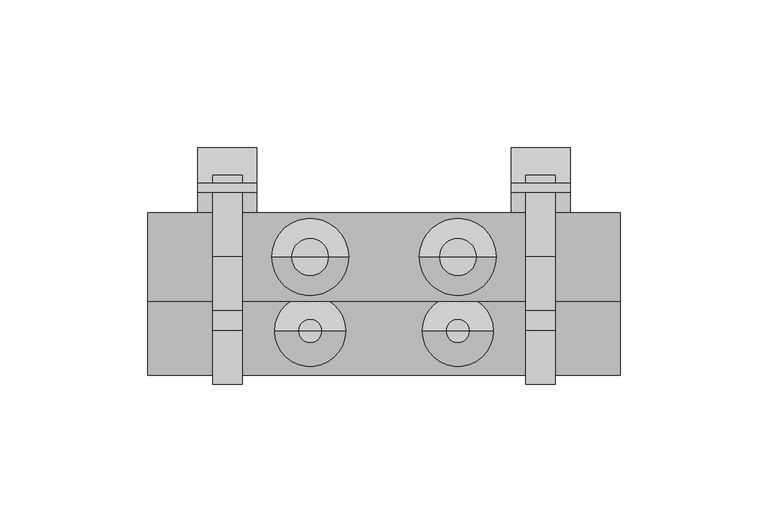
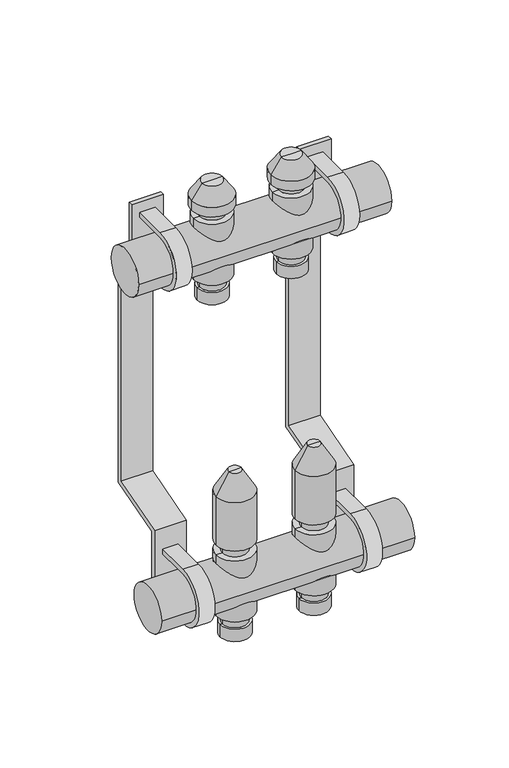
"""IFC4 building model written with IfcOpenShell, lengths in millimetres: valve geometry, PL CZ_Manifold_FT-VA : 02 circuits."""

from ifc_helpers import new_model, si_unit, point, frame, frame_2d, origin, origin_2d, place, context, project, spatial, polyline, circle_curve, trimmed, segment, composite_curve, outline, extrude, source, transform, mapped, element, save
from ifc_brep_helpers import plane_surface, cylinder_surface, revolved_surface, advanced_brep


def valve_fda01fd1(model_context):
    return source(origin(), model_context, "Body", "SolidModel", [
        advanced_brep(
        [(78.5, 0.0, -35.11267), (97.5, 0.0, -35.11267), (88.0, 0.0, -35.11267), (78.5, 0.0, -27.0369646), (97.5, 0.0, -27.0369646), (80.0, 0.0, -27.0369646), (96.0, 0.0, -27.0369646), (80.0, 0.0, -20.330253), (96.0, 0.0, -20.330253), (76.0, 0.0, -20.330253), (100.0, 0.0, -20.330253), (76.0, 0.0, 20.330253), (100.0, 0.0, 20.330253), (80.0, 0.0, 20.330253), (96.0, 0.0, 20.330253), (80.0, 0.0, 27.0474786), (96.0, 0.0, 27.0474786), (76.0, 0.0, 27.0474786), (100.0, 0.0, 27.0474786), (76.0, 0.0, 59.4084325), (100.0, 0.0, 59.4084325), (84.0, 0.0, 73.264839), (92.0, 0.0, 73.264839), (88.0, 0.0, 73.264839)],
        [
            (0, 1, circle_curve(frame((88.0, 0.0, -35.11267), z_axis=(0.0, 0.0, -1.0), x_axis=(1.0, 0.0, 0.0)), 9.5)),
            (1, 2),
            (2, 0),
            (1, 0, circle_curve(frame((88.0, 0.0, -35.11267), z_axis=(0.0, 0.0, -1.0), x_axis=(1.0, 0.0, 0.0)), 9.5)),
            (3, 4, circle_curve(frame((88.0, 0.0, -27.0369646), z_axis=(0.0, 0.0, -1.0), x_axis=(1.0, 0.0, 0.0)), 9.5)),
            (4, 1),
            (0, 3),
            (4, 3, circle_curve(frame((88.0, 0.0, -27.0369646), z_axis=(0.0, 0.0, -1.0), x_axis=(1.0, 0.0, 0.0)), 9.5)),
            (5, 6, circle_curve(frame((88.0, 0.0, -27.0369646), z_axis=(0.0, 0.0, -1.0), x_axis=(1.0, 0.0, 0.0)), 8.0)),
            (6, 4),
            (3, 5),
            (6, 5, circle_curve(frame((88.0, 0.0, -27.0369646), z_axis=(0.0, 0.0, -1.0), x_axis=(1.0, 0.0, 0.0)), 8.0)),
            (7, 8, circle_curve(frame((88.0, 0.0, -20.330253), z_axis=(0.0, 0.0, -1.0), x_axis=(1.0, 0.0, 0.0)), 8.0)),
            (8, 6),
            (5, 7),
            (8, 7, circle_curve(frame((88.0, 0.0, -20.330253), z_axis=(0.0, 0.0, -1.0), x_axis=(1.0, 0.0, 0.0)), 8.0)),
            (9, 10, circle_curve(frame((88.0, 0.0, -20.330253), z_axis=(0.0, 0.0, -1.0), x_axis=(1.0, 0.0, 0.0)), 12.0)),
            (10, 8),
            (7, 9),
            (10, 9, circle_curve(frame((88.0, 0.0, -20.330253), z_axis=(0.0, 0.0, -1.0), x_axis=(1.0, 0.0, 0.0)), 12.0)),
            (11, 12, circle_curve(frame((88.0, 0.0, 20.330253), z_axis=(0.0, 0.0, -1.0), x_axis=(1.0, 0.0, 0.0)), 12.0)),
            (12, 10),
            (9, 11),
            (12, 11, circle_curve(frame((88.0, 0.0, 20.330253), z_axis=(0.0, 0.0, -1.0), x_axis=(1.0, 0.0, 0.0)), 12.0)),
            (13, 14, circle_curve(frame((88.0, 0.0, 20.330253), z_axis=(0.0, 0.0, -1.0), x_axis=(1.0, 0.0, 0.0)), 8.0)),
            (14, 12),
            (11, 13),
            (14, 13, circle_curve(frame((88.0, 0.0, 20.330253), z_axis=(0.0, 0.0, -1.0), x_axis=(1.0, 0.0, 0.0)), 8.0)),
            (15, 16, circle_curve(frame((88.0, 0.0, 27.0474786), z_axis=(0.0, 0.0, -1.0), x_axis=(1.0, 0.0, 0.0)), 8.0)),
            (16, 14),
            (13, 15),
            (16, 15, circle_curve(frame((88.0, 0.0, 27.0474786), z_axis=(0.0, 0.0, -1.0), x_axis=(1.0, 0.0, 0.0)), 8.0)),
            (17, 18, circle_curve(frame((88.0, 0.0, 27.0474786), z_axis=(0.0, 0.0, -1.0), x_axis=(1.0, 0.0, 0.0)), 12.0)),
            (18, 16),
            (15, 17),
            (18, 17, circle_curve(frame((88.0, 0.0, 27.0474786), z_axis=(0.0, 0.0, -1.0), x_axis=(1.0, 0.0, 0.0)), 12.0)),
            (19, 20, circle_curve(frame((88.0, 0.0, 59.4084325), z_axis=(0.0, 0.0, -1.0), x_axis=(1.0, 0.0, 0.0)), 12.0)),
            (20, 18),
            (17, 19),
            (20, 19, circle_curve(frame((88.0, 0.0, 59.4084325), z_axis=(0.0, 0.0, -1.0), x_axis=(1.0, 0.0, 0.0)), 12.0)),
            (21, 22, circle_curve(frame((88.0, 0.0, 73.264839), z_axis=(0.0, 0.0, -1.0), x_axis=(1.0, 0.0, 0.0)), 4.0)),
            (22, 20),
            (19, 21),
            (22, 21, circle_curve(frame((88.0, 0.0, 73.264839), z_axis=(0.0, 0.0, -1.0), x_axis=(1.0, 0.0, 0.0)), 4.0)),
            (23, 22),
            (21, 23),
        ],
        [
            plane_surface(frame((88.0, 0.0, -35.11267), z_axis=(0.0, 0.0, -1.0), x_axis=(1.0, 0.0, 0.0))),
            cylinder_surface(frame((88.0, 0.0, 58.264839), z_axis=(0.0, 0.0, 1.0), x_axis=(1.0, 0.0, 0.0)), 9.5),
            plane_surface(frame((88.0, 0.0, -27.0369646), z_axis=(0.0, 0.0, 1.0), x_axis=(1.0, 0.0, 0.0))),
            cylinder_surface(frame((88.0, 0.0, 58.264839), z_axis=(0.0, 0.0, 1.0), x_axis=(1.0, 0.0, 0.0)), 8.0),
            plane_surface(frame((88.0, 0.0, -20.330253), z_axis=(0.0, 0.0, -1.0), x_axis=(1.0, 0.0, 0.0))),
            cylinder_surface(frame((88.0, 0.0, 58.264839), z_axis=(0.0, 0.0, 1.0), x_axis=(1.0, 0.0, 0.0)), 12.0),
            plane_surface(frame((88.0, 0.0, 20.330253), z_axis=(0.0, 0.0, 1.0), x_axis=(1.0, 0.0, 0.0))),
            plane_surface(frame((88.0, 0.0, 27.0474786), z_axis=(0.0, 0.0, -1.0), x_axis=(1.0, 0.0, 0.0))),
            revolved_surface(polyline([(100.0, 0.0, 59.4084325), (92.0, 0.0, 73.264839)]), (88.0, 0.0, 58.264839), (0.0, 0.0, 1.0)),
            plane_surface(frame((88.0, 0.0, 73.264839), z_axis=(0.0, 0.0, 1.0), x_axis=(1.0, 0.0, 0.0))),
        ],
        [
            (0, [[1, 2, 3]]),
            (0, [[4, -3, -2]]),
            (1, [[5, 6, -1, 7]]),
            (1, [[8, -7, -4, -6]]),
            (2, [[9, 10, -5, 11]]),
            (2, [[12, -11, -8, -10]]),
            (3, [[13, 14, -9, 15]]),
            (3, [[16, -15, -12, -14]]),
            (4, [[17, 18, -13, 19]]),
            (4, [[20, -19, -16, -18]]),
            (5, [[21, 22, -17, 23]]),
            (5, [[24, -23, -20, -22]]),
            (6, [[25, 26, -21, 27]]),
            (6, [[28, -27, -24, -26]]),
            (3, [[29, 30, -25, 31]]),
            (3, [[32, -31, -28, -30]]),
            (7, [[33, 34, -29, 35]]),
            (7, [[36, -35, -32, -34]]),
            (5, [[37, 38, -33, 39]]),
            (5, [[40, -39, -36, -38]]),
            (8, [[41, 42, -37, 43]]),
            (8, [[44, -43, -40, -42]]),
            (9, [[45, -41, 46]]),
            (9, [[-46, -44, -45]]),
        ],
    ),
        advanced_brep(
        [(78.5, 25.0, 174.88733), (97.5, 25.0, 174.88733), (88.0, 25.0, 174.88733), (78.5, 25.0, 182.9630354), (97.5, 25.0, 182.9630354), (80.0, 25.0, 182.9630354), (96.0, 25.0, 182.9630354), (80.0, 25.0, 189.669747), (96.0, 25.0, 189.669747), (76.0, 25.0, 189.669747), (100.0, 25.0, 189.669747), (76.0, 25.0, 230.330253), (100.0, 25.0, 230.330253), (80.0, 25.0, 230.330253), (96.0, 25.0, 230.330253), (80.0, 25.0, 236.0474786), (96.0, 25.0, 236.0474786), (75.0, 25.0, 236.0474786), (101.0, 25.0, 236.0474786), (75.0, 25.0, 242.337955), (101.0, 25.0, 242.337955), (81.6551779, 25.0, 251.842534), (94.3448221, 25.0, 251.842534), (88.0, 25.0, 251.842534)],
        [
            (0, 1, circle_curve(frame((88.0, 25.0, 174.88733), z_axis=(0.0, 0.0, -1.0), x_axis=(1.0, 0.0, 0.0)), 9.5)),
            (1, 2),
            (2, 0),
            (1, 0, circle_curve(frame((88.0, 25.0, 174.88733), z_axis=(0.0, 0.0, -1.0), x_axis=(1.0, 0.0, 0.0)), 9.5)),
            (3, 4, circle_curve(frame((88.0, 25.0, 182.9630354), z_axis=(0.0, 0.0, -1.0), x_axis=(1.0, 0.0, 0.0)), 9.5)),
            (4, 1),
            (0, 3),
            (4, 3, circle_curve(frame((88.0, 25.0, 182.9630354), z_axis=(0.0, 0.0, -1.0), x_axis=(1.0, 0.0, 0.0)), 9.5)),
            (5, 6, circle_curve(frame((88.0, 25.0, 182.9630354), z_axis=(0.0, 0.0, -1.0), x_axis=(1.0, 0.0, 0.0)), 8.0)),
            (6, 4),
            (3, 5),
            (6, 5, circle_curve(frame((88.0, 25.0, 182.9630354), z_axis=(0.0, 0.0, -1.0), x_axis=(1.0, 0.0, 0.0)), 8.0)),
            (7, 8, circle_curve(frame((88.0, 25.0, 189.669747), z_axis=(0.0, 0.0, -1.0), x_axis=(1.0, 0.0, 0.0)), 8.0)),
            (8, 6),
            (5, 7),
            (8, 7, circle_curve(frame((88.0, 25.0, 189.669747), z_axis=(0.0, 0.0, -1.0), x_axis=(1.0, 0.0, 0.0)), 8.0)),
            (9, 10, circle_curve(frame((88.0, 25.0, 189.669747), z_axis=(0.0, 0.0, -1.0), x_axis=(1.0, 0.0, 0.0)), 12.0)),
            (10, 8),
            (7, 9),
            (10, 9, circle_curve(frame((88.0, 25.0, 189.669747), z_axis=(0.0, 0.0, -1.0), x_axis=(1.0, 0.0, 0.0)), 12.0)),
            (11, 12, circle_curve(frame((88.0, 25.0, 230.330253), z_axis=(0.0, 0.0, -1.0), x_axis=(1.0, 0.0, 0.0)), 12.0)),
            (12, 10),
            (9, 11),
            (12, 11, circle_curve(frame((88.0, 25.0, 230.330253), z_axis=(0.0, 0.0, -1.0), x_axis=(1.0, 0.0, 0.0)), 12.0)),
            (13, 14, circle_curve(frame((88.0, 25.0, 230.330253), z_axis=(0.0, 0.0, -1.0), x_axis=(1.0, 0.0, 0.0)), 8.0)),
            (14, 12),
            (11, 13),
            (14, 13, circle_curve(frame((88.0, 25.0, 230.330253), z_axis=(0.0, 0.0, -1.0), x_axis=(1.0, 0.0, 0.0)), 8.0)),
            (15, 16, circle_curve(frame((88.0, 25.0, 236.0474786), z_axis=(0.0, 0.0, -1.0), x_axis=(1.0, 0.0, 0.0)), 8.0)),
            (16, 14),
            (13, 15),
            (16, 15, circle_curve(frame((88.0, 25.0, 236.0474786), z_axis=(0.0, 0.0, -1.0), x_axis=(1.0, 0.0, 0.0)), 8.0)),
            (17, 18, circle_curve(frame((88.0, 25.0, 236.0474786), z_axis=(0.0, 0.0, -1.0), x_axis=(1.0, 0.0, 0.0)), 13.0)),
            (18, 16),
            (15, 17),
            (18, 17, circle_curve(frame((88.0, 25.0, 236.0474786), z_axis=(0.0, 0.0, -1.0), x_axis=(1.0, 0.0, 0.0)), 13.0)),
            (19, 20, circle_curve(frame((88.0, 25.0, 242.337955), z_axis=(0.0, 0.0, -1.0), x_axis=(1.0, 0.0, 0.0)), 13.0)),
            (20, 18),
            (17, 19),
            (20, 19, circle_curve(frame((88.0, 25.0, 242.337955), z_axis=(0.0, 0.0, -1.0), x_axis=(1.0, 0.0, 0.0)), 13.0)),
            (21, 22, circle_curve(frame((88.0, 25.0, 251.842534), z_axis=(0.0, 0.0, -1.0), x_axis=(1.0, 0.0, 0.0)), 6.3448221)),
            (22, 20),
            (19, 21),
            (22, 21, circle_curve(frame((88.0, 25.0, 251.842534), z_axis=(0.0, 0.0, -1.0), x_axis=(1.0, 0.0, 0.0)), 6.3448221)),
            (23, 22),
            (21, 23),
        ],
        [
            plane_surface(frame((88.0, 25.0, 174.88733), z_axis=(0.0, 0.0, -1.0), x_axis=(1.0, 0.0, 0.0))),
            cylinder_surface(frame((88.0, 25.0, 247.7026565), z_axis=(0.0, 0.0, 1.0), x_axis=(1.0, 0.0, 0.0)), 9.5),
            plane_surface(frame((88.0, 25.0, 182.9630354), z_axis=(0.0, 0.0, 1.0), x_axis=(1.0, 0.0, 0.0))),
            cylinder_surface(frame((88.0, 25.0, 247.7026565), z_axis=(0.0, 0.0, 1.0), x_axis=(1.0, 0.0, 0.0)), 8.0),
            plane_surface(frame((88.0, 25.0, 189.669747), z_axis=(0.0, 0.0, -1.0), x_axis=(1.0, 0.0, 0.0))),
            cylinder_surface(frame((88.0, 25.0, 247.7026565), z_axis=(0.0, 0.0, 1.0), x_axis=(1.0, 0.0, 0.0)), 12.0),
            plane_surface(frame((88.0, 25.0, 230.330253), z_axis=(0.0, 0.0, 1.0), x_axis=(1.0, 0.0, 0.0))),
            plane_surface(frame((88.0, 25.0, 236.0474786), z_axis=(0.0, 0.0, -1.0), x_axis=(1.0, 0.0, 0.0))),
            cylinder_surface(frame((88.0, 25.0, 247.7026565), z_axis=(0.0, 0.0, 1.0), x_axis=(1.0, 0.0, 0.0)), 13.0),
            revolved_surface(polyline([(101.0, 25.0, 242.337955), (94.3448221, 25.0, 251.842534)]), (88.0, 25.0, 247.7026565), (0.0, 0.0, 1.0)),
            plane_surface(frame((88.0, 25.0, 251.842534), z_axis=(0.0, 0.0, 1.0), x_axis=(1.0, 0.0, 0.0))),
        ],
        [
            (0, [[1, 2, 3]]),
            (0, [[4, -3, -2]]),
            (1, [[5, 6, -1, 7]]),
            (1, [[8, -7, -4, -6]]),
            (2, [[9, 10, -5, 11]]),
            (2, [[12, -11, -8, -10]]),
            (3, [[13, 14, -9, 15]]),
            (3, [[16, -15, -12, -14]]),
            (4, [[17, 18, -13, 19]]),
            (4, [[20, -19, -16, -18]]),
            (5, [[21, 22, -17, 23]]),
            (5, [[24, -23, -20, -22]]),
            (6, [[25, 26, -21, 27]]),
            (6, [[28, -27, -24, -26]]),
            (3, [[29, 30, -25, 31]]),
            (3, [[32, -31, -28, -30]]),
            (7, [[33, 34, -29, 35]]),
            (7, [[36, -35, -32, -34]]),
            (8, [[37, 38, -33, 39]]),
            (8, [[40, -39, -36, -38]]),
            (9, [[41, 42, -37, 43]]),
            (9, [[44, -43, -40, -42]]),
            (10, [[45, -41, 46]]),
            (10, [[-46, -44, -45]]),
        ],
    ),
        advanced_brep(
        [(28.5, 25.0, 174.88733), (47.5, 25.0, 174.88733), (38.0, 25.0, 174.88733), (28.5, 25.0, 182.9630354), (47.5, 25.0, 182.9630354), (30.0, 25.0, 182.9630354), (46.0, 25.0, 182.9630354), (30.0, 25.0, 189.669747), (46.0, 25.0, 189.669747), (26.0, 25.0, 189.669747), (50.0, 25.0, 189.669747), (26.0, 25.0, 230.330253), (50.0, 25.0, 230.330253), (30.0, 25.0, 230.330253), (46.0, 25.0, 230.330253), (30.0, 25.0, 236.0474786), (46.0, 25.0, 236.0474786), (25.0, 25.0, 236.0474786), (51.0, 25.0, 236.0474786), (25.0, 25.0, 242.337955), (51.0, 25.0, 242.337955), (31.6551779, 25.0, 251.842534), (44.3448221, 25.0, 251.842534), (38.0, 25.0, 251.842534)],
        [
            (0, 1, circle_curve(frame((38.0, 25.0, 174.88733), z_axis=(0.0, 0.0, -1.0), x_axis=(1.0, 0.0, 0.0)), 9.5)),
            (1, 2),
            (2, 0),
            (1, 0, circle_curve(frame((38.0, 25.0, 174.88733), z_axis=(0.0, 0.0, -1.0), x_axis=(1.0, 0.0, 0.0)), 9.5)),
            (3, 4, circle_curve(frame((38.0, 25.0, 182.9630354), z_axis=(0.0, 0.0, -1.0), x_axis=(1.0, 0.0, 0.0)), 9.5)),
            (4, 1),
            (0, 3),
            (4, 3, circle_curve(frame((38.0, 25.0, 182.9630354), z_axis=(0.0, 0.0, -1.0), x_axis=(1.0, 0.0, 0.0)), 9.5)),
            (5, 6, circle_curve(frame((38.0, 25.0, 182.9630354), z_axis=(0.0, 0.0, -1.0), x_axis=(1.0, 0.0, 0.0)), 8.0)),
            (6, 4),
            (3, 5),
            (6, 5, circle_curve(frame((38.0, 25.0, 182.9630354), z_axis=(0.0, 0.0, -1.0), x_axis=(1.0, 0.0, 0.0)), 8.0)),
            (7, 8, circle_curve(frame((38.0, 25.0, 189.669747), z_axis=(0.0, 0.0, -1.0), x_axis=(1.0, 0.0, 0.0)), 8.0)),
            (8, 6),
            (5, 7),
            (8, 7, circle_curve(frame((38.0, 25.0, 189.669747), z_axis=(0.0, 0.0, -1.0), x_axis=(1.0, 0.0, 0.0)), 8.0)),
            (9, 10, circle_curve(frame((38.0, 25.0, 189.669747), z_axis=(0.0, 0.0, -1.0), x_axis=(1.0, 0.0, 0.0)), 12.0)),
            (10, 8),
            (7, 9),
            (10, 9, circle_curve(frame((38.0, 25.0, 189.669747), z_axis=(0.0, 0.0, -1.0), x_axis=(1.0, 0.0, 0.0)), 12.0)),
            (11, 12, circle_curve(frame((38.0, 25.0, 230.330253), z_axis=(0.0, 0.0, -1.0), x_axis=(1.0, 0.0, 0.0)), 12.0)),
            (12, 10),
            (9, 11),
            (12, 11, circle_curve(frame((38.0, 25.0, 230.330253), z_axis=(0.0, 0.0, -1.0), x_axis=(1.0, 0.0, 0.0)), 12.0)),
            (13, 14, circle_curve(frame((38.0, 25.0, 230.330253), z_axis=(0.0, 0.0, -1.0), x_axis=(1.0, 0.0, 0.0)), 8.0)),
            (14, 12),
            (11, 13),
            (14, 13, circle_curve(frame((38.0, 25.0, 230.330253), z_axis=(0.0, 0.0, -1.0), x_axis=(1.0, 0.0, 0.0)), 8.0)),
            (15, 16, circle_curve(frame((38.0, 25.0, 236.0474786), z_axis=(0.0, 0.0, -1.0), x_axis=(1.0, 0.0, 0.0)), 8.0)),
            (16, 14),
            (13, 15),
            (16, 15, circle_curve(frame((38.0, 25.0, 236.0474786), z_axis=(0.0, 0.0, -1.0), x_axis=(1.0, 0.0, 0.0)), 8.0)),
            (17, 18, circle_curve(frame((38.0, 25.0, 236.0474786), z_axis=(0.0, 0.0, -1.0), x_axis=(1.0, 0.0, 0.0)), 13.0)),
            (18, 16),
            (15, 17),
            (18, 17, circle_curve(frame((38.0, 25.0, 236.0474786), z_axis=(0.0, 0.0, -1.0), x_axis=(1.0, 0.0, 0.0)), 13.0)),
            (19, 20, circle_curve(frame((38.0, 25.0, 242.337955), z_axis=(0.0, 0.0, -1.0), x_axis=(1.0, 0.0, 0.0)), 13.0)),
            (20, 18),
            (17, 19),
            (20, 19, circle_curve(frame((38.0, 25.0, 242.337955), z_axis=(0.0, 0.0, -1.0), x_axis=(1.0, 0.0, 0.0)), 13.0)),
            (21, 22, circle_curve(frame((38.0, 25.0, 251.842534), z_axis=(0.0, 0.0, -1.0), x_axis=(1.0, 0.0, 0.0)), 6.3448221)),
            (22, 20),
            (19, 21),
            (22, 21, circle_curve(frame((38.0, 25.0, 251.842534), z_axis=(0.0, 0.0, -1.0), x_axis=(1.0, 0.0, 0.0)), 6.3448221)),
            (23, 22),
            (21, 23),
        ],
        [
            plane_surface(frame((38.0, 25.0, 174.88733), z_axis=(0.0, 0.0, -1.0), x_axis=(1.0, 0.0, 0.0))),
            cylinder_surface(frame((38.0, 25.0, 247.7026565), z_axis=(0.0, 0.0, 1.0), x_axis=(1.0, 0.0, 0.0)), 9.5),
            plane_surface(frame((38.0, 25.0, 182.9630354), z_axis=(0.0, 0.0, 1.0), x_axis=(1.0, 0.0, 0.0))),
            cylinder_surface(frame((38.0, 25.0, 247.7026565), z_axis=(0.0, 0.0, 1.0), x_axis=(1.0, 0.0, 0.0)), 8.0),
            plane_surface(frame((38.0, 25.0, 189.669747), z_axis=(0.0, 0.0, -1.0), x_axis=(1.0, 0.0, 0.0))),
            cylinder_surface(frame((38.0, 25.0, 247.7026565), z_axis=(0.0, 0.0, 1.0), x_axis=(1.0, 0.0, 0.0)), 12.0),
            plane_surface(frame((38.0, 25.0, 230.330253), z_axis=(0.0, 0.0, 1.0), x_axis=(1.0, 0.0, 0.0))),
            plane_surface(frame((38.0, 25.0, 236.0474786), z_axis=(0.0, 0.0, -1.0), x_axis=(1.0, 0.0, 0.0))),
            cylinder_surface(frame((38.0, 25.0, 247.7026565), z_axis=(0.0, 0.0, 1.0), x_axis=(1.0, 0.0, 0.0)), 13.0),
            revolved_surface(polyline([(51.0, 25.0, 242.337955), (44.3448221, 25.0, 251.842534)]), (38.0, 25.0, 247.7026565), (0.0, 0.0, 1.0)),
            plane_surface(frame((38.0, 25.0, 251.842534), z_axis=(0.0, 0.0, 1.0), x_axis=(1.0, 0.0, 0.0))),
        ],
        [
            (0, [[1, 2, 3]]),
            (0, [[4, -3, -2]]),
            (1, [[5, 6, -1, 7]]),
            (1, [[8, -7, -4, -6]]),
            (2, [[9, 10, -5, 11]]),
            (2, [[12, -11, -8, -10]]),
            (3, [[13, 14, -9, 15]]),
            (3, [[16, -15, -12, -14]]),
            (4, [[17, 18, -13, 19]]),
            (4, [[20, -19, -16, -18]]),
            (5, [[21, 22, -17, 23]]),
            (5, [[24, -23, -20, -22]]),
            (6, [[25, 26, -21, 27]]),
            (6, [[28, -27, -24, -26]]),
            (3, [[29, 30, -25, 31]]),
            (3, [[32, -31, -28, -30]]),
            (7, [[33, 34, -29, 35]]),
            (7, [[36, -35, -32, -34]]),
            (8, [[37, 38, -33, 39]]),
            (8, [[40, -39, -36, -38]]),
            (9, [[41, 42, -37, 43]]),
            (9, [[44, -43, -40, -42]]),
            (10, [[45, -41, 46]]),
            (10, [[-46, -44, -45]]),
        ],
    ),
        advanced_brep(
        [(28.5, 0.0, -35.11267), (47.5, 0.0, -35.11267), (38.0, 0.0, -35.11267), (28.5, 0.0, -27.0369646), (47.5, 0.0, -27.0369646), (30.0, 0.0, -27.0369646), (46.0, 0.0, -27.0369646), (30.0, 0.0, -20.330253), (46.0, 0.0, -20.330253), (26.0, 0.0, -20.330253), (50.0, 0.0, -20.330253), (26.0, 0.0, 20.330253), (50.0, 0.0, 20.330253), (30.0, 0.0, 20.330253), (46.0, 0.0, 20.330253), (30.0, 0.0, 27.0474786), (46.0, 0.0, 27.0474786), (26.0, 0.0, 27.0474786), (50.0, 0.0, 27.0474786), (26.0, 0.0, 59.4084325), (50.0, 0.0, 59.4084325), (34.0, 0.0, 73.264839), (42.0, 0.0, 73.264839), (38.0, 0.0, 73.264839)],
        [
            (0, 1, circle_curve(frame((38.0, 0.0, -35.11267), z_axis=(0.0, 0.0, -1.0), x_axis=(1.0, 0.0, 0.0)), 9.5)),
            (1, 2),
            (2, 0),
            (1, 0, circle_curve(frame((38.0, 0.0, -35.11267), z_axis=(0.0, 0.0, -1.0), x_axis=(1.0, 0.0, 0.0)), 9.5)),
            (3, 4, circle_curve(frame((38.0, 0.0, -27.0369646), z_axis=(0.0, 0.0, -1.0), x_axis=(1.0, 0.0, 0.0)), 9.5)),
            (4, 1),
            (0, 3),
            (4, 3, circle_curve(frame((38.0, 0.0, -27.0369646), z_axis=(0.0, 0.0, -1.0), x_axis=(1.0, 0.0, 0.0)), 9.5)),
            (5, 6, circle_curve(frame((38.0, 0.0, -27.0369646), z_axis=(0.0, 0.0, -1.0), x_axis=(1.0, 0.0, 0.0)), 8.0)),
            (6, 4),
            (3, 5),
            (6, 5, circle_curve(frame((38.0, 0.0, -27.0369646), z_axis=(0.0, 0.0, -1.0), x_axis=(1.0, 0.0, 0.0)), 8.0)),
            (7, 8, circle_curve(frame((38.0, 0.0, -20.330253), z_axis=(0.0, 0.0, -1.0), x_axis=(1.0, 0.0, 0.0)), 8.0)),
            (8, 6),
            (5, 7),
            (8, 7, circle_curve(frame((38.0, 0.0, -20.330253), z_axis=(0.0, 0.0, -1.0), x_axis=(1.0, 0.0, 0.0)), 8.0)),
            (9, 10, circle_curve(frame((38.0, 0.0, -20.330253), z_axis=(0.0, 0.0, -1.0), x_axis=(1.0, 0.0, 0.0)), 12.0)),
            (10, 8),
            (7, 9),
            (10, 9, circle_curve(frame((38.0, 0.0, -20.330253), z_axis=(0.0, 0.0, -1.0), x_axis=(1.0, 0.0, 0.0)), 12.0)),
            (11, 12, circle_curve(frame((38.0, 0.0, 20.330253), z_axis=(0.0, 0.0, -1.0), x_axis=(1.0, 0.0, 0.0)), 12.0)),
            (12, 10),
            (9, 11),
            (12, 11, circle_curve(frame((38.0, 0.0, 20.330253), z_axis=(0.0, 0.0, -1.0), x_axis=(1.0, 0.0, 0.0)), 12.0)),
            (13, 14, circle_curve(frame((38.0, 0.0, 20.330253), z_axis=(0.0, 0.0, -1.0), x_axis=(1.0, 0.0, 0.0)), 8.0)),
            (14, 12),
            (11, 13),
            (14, 13, circle_curve(frame((38.0, 0.0, 20.330253), z_axis=(0.0, 0.0, -1.0), x_axis=(1.0, 0.0, 0.0)), 8.0)),
            (15, 16, circle_curve(frame((38.0, 0.0, 27.0474786), z_axis=(0.0, 0.0, -1.0), x_axis=(1.0, 0.0, 0.0)), 8.0)),
            (16, 14),
            (13, 15),
            (16, 15, circle_curve(frame((38.0, 0.0, 27.0474786), z_axis=(0.0, 0.0, -1.0), x_axis=(1.0, 0.0, 0.0)), 8.0)),
            (17, 18, circle_curve(frame((38.0, 0.0, 27.0474786), z_axis=(0.0, 0.0, -1.0), x_axis=(1.0, 0.0, 0.0)), 12.0)),
            (18, 16),
            (15, 17),
            (18, 17, circle_curve(frame((38.0, 0.0, 27.0474786), z_axis=(0.0, 0.0, -1.0), x_axis=(1.0, 0.0, 0.0)), 12.0)),
            (19, 20, circle_curve(frame((38.0, 0.0, 59.4084325), z_axis=(0.0, 0.0, -1.0), x_axis=(1.0, 0.0, 0.0)), 12.0)),
            (20, 18),
            (17, 19),
            (20, 19, circle_curve(frame((38.0, 0.0, 59.4084325), z_axis=(0.0, 0.0, -1.0), x_axis=(1.0, 0.0, 0.0)), 12.0)),
            (21, 22, circle_curve(frame((38.0, 0.0, 73.264839), z_axis=(0.0, 0.0, -1.0), x_axis=(1.0, 0.0, 0.0)), 4.0)),
            (22, 20),
            (19, 21),
            (22, 21, circle_curve(frame((38.0, 0.0, 73.264839), z_axis=(0.0, 0.0, -1.0), x_axis=(1.0, 0.0, 0.0)), 4.0)),
            (23, 22),
            (21, 23),
        ],
        [
            plane_surface(frame((38.0, 0.0, -35.11267), z_axis=(0.0, 0.0, -1.0), x_axis=(1.0, 0.0, 0.0))),
            cylinder_surface(frame((38.0, 0.0, 58.264839), z_axis=(0.0, 0.0, 1.0), x_axis=(1.0, 0.0, 0.0)), 9.5),
            plane_surface(frame((38.0, 0.0, -27.0369646), z_axis=(0.0, 0.0, 1.0), x_axis=(1.0, 0.0, 0.0))),
            cylinder_surface(frame((38.0, 0.0, 58.264839), z_axis=(0.0, 0.0, 1.0), x_axis=(1.0, 0.0, 0.0)), 8.0),
            plane_surface(frame((38.0, 0.0, -20.330253), z_axis=(0.0, 0.0, -1.0), x_axis=(1.0, 0.0, 0.0))),
            cylinder_surface(frame((38.0, 0.0, 58.264839), z_axis=(0.0, 0.0, 1.0), x_axis=(1.0, 0.0, 0.0)), 12.0),
            plane_surface(frame((38.0, 0.0, 20.330253), z_axis=(0.0, 0.0, 1.0), x_axis=(1.0, 0.0, 0.0))),
            plane_surface(frame((38.0, 0.0, 27.0474786), z_axis=(0.0, 0.0, -1.0), x_axis=(1.0, 0.0, 0.0))),
            revolved_surface(polyline([(50.0, 0.0, 59.4084325), (42.0, 0.0, 73.264839)]), (38.0, 0.0, 58.264839), (0.0, 0.0, 1.0)),
            plane_surface(frame((38.0, 0.0, 73.264839), z_axis=(0.0, 0.0, 1.0), x_axis=(1.0, 0.0, 0.0))),
        ],
        [
            (0, [[1, 2, 3]]),
            (0, [[4, -3, -2]]),
            (1, [[5, 6, -1, 7]]),
            (1, [[8, -7, -4, -6]]),
            (2, [[9, 10, -5, 11]]),
            (2, [[12, -11, -8, -10]]),
            (3, [[13, 14, -9, 15]]),
            (3, [[16, -15, -12, -14]]),
            (4, [[17, 18, -13, 19]]),
            (4, [[20, -19, -16, -18]]),
            (5, [[21, 22, -17, 23]]),
            (5, [[24, -23, -20, -22]]),
            (6, [[25, 26, -21, 27]]),
            (6, [[28, -27, -24, -26]]),
            (3, [[29, 30, -25, 31]]),
            (3, [[32, -31, -28, -30]]),
            (7, [[33, 34, -29, 35]]),
            (7, [[36, -35, -32, -34]]),
            (5, [[37, 38, -33, 39]]),
            (5, [[40, -39, -36, -38]]),
            (8, [[41, 42, -37, 43]]),
            (8, [[44, -43, -40, -42]]),
            (9, [[45, -41, 46]]),
            (9, [[-46, -44, -45]]),
        ],
    ),
        extrude(outline(composite_curve([segment(trimmed(circle_curve(origin_2d(), 15.0), [point((0.0, 15.0))], [point((0.0, -15.0))], True, "CARTESIAN"), True, "CONTINUOUS"), segment(polyline([(0.0, -15.0), (27.6751284, -15.0), (27.6751284, -18.0), (0.0, -18.0)]), True, "CONTINUOUS"), segment(trimmed(circle_curve(origin_2d(), 18.0), [point((0.0, -18.0))], [point((0.0, 18.0))], False, "CARTESIAN"), True, "CONTINUOUS"), segment(polyline([(0.0, 18.0), (27.6751284, 18.0), (27.6751284, 15.0), (0.0, 15.0)]), True, "CONTINUOUS")], self_intersect=False)), frame((111.0, 0.0, 0.0), z_axis=(1.0, 0.0, 0.0), x_axis=(0.0, 1.0, 0.0)), (0.0, 0.0, 1.0), 10.0),
        extrude(outline(composite_curve([segment(trimmed(circle_curve(frame_2d((25.0, 210.0)), 15.0), [point((25.0, 225.0))], [point((25.0, 195.0))], True, "CARTESIAN"), True, "CONTINUOUS"), segment(polyline([(25.0, 195.0), (52.6751284, 195.0), (52.6751284, 192.0), (25.0, 192.0)]), True, "CONTINUOUS"), segment(trimmed(circle_curve(frame_2d((25.0, 210.0)), 18.0), [point((25.0, 192.0))], [point((25.0, 228.0))], False, "CARTESIAN"), True, "CONTINUOUS"), segment(polyline([(25.0, 228.0), (52.6751284, 228.0), (52.6751284, 225.0), (25.0, 225.0)]), True, "CONTINUOUS")], self_intersect=False)), frame((111.0, 0.0, 0.0), z_axis=(1.0, 0.0, 0.0), x_axis=(0.0, 1.0, 0.0)), (0.0, 0.0, 1.0), 10.0),
        extrude(outline(polyline([(62.0, 182.8840762), (62.0, 40.6095793), (25.0, 30.0), (25.0, -30.0), (22.0, -30.0), (22.0, 32.2606622), (59.0, 42.8702414), (59.0, 180.3667773), (47.0, 182.4827011), (47.0, 235.0), (50.0, 235.0), (50.0, 185.0), (62.0, 182.8840762)])), frame((106.0, 0.0, 0.0), z_axis=(1.0, 0.0, 0.0), x_axis=(0.0, 1.0, 0.0)), (0.0, 0.0, 1.0), 20.0),
        extrude(outline(composite_curve([segment(trimmed(circle_curve(origin_2d(), 15.0), [point((0.0, 15.0))], [point((0.0, -15.0))], True, "CARTESIAN"), True, "CONTINUOUS"), segment(polyline([(0.0, -15.0), (27.6751284, -15.0), (27.6751284, -18.0), (0.0, -18.0)]), True, "CONTINUOUS"), segment(trimmed(circle_curve(origin_2d(), 18.0), [point((0.0, -18.0))], [point((0.0, 18.0))], False, "CARTESIAN"), True, "CONTINUOUS"), segment(polyline([(0.0, 18.0), (27.6751284, 18.0), (27.6751284, 15.0), (0.0, 15.0)]), True, "CONTINUOUS")], self_intersect=False)), frame((5.0, 0.0, 0.0), z_axis=(1.0, 0.0, 0.0), x_axis=(0.0, 1.0, 0.0)), (0.0, 0.0, 1.0), 10.0),
        extrude(outline(composite_curve([segment(trimmed(circle_curve(frame_2d((25.0, 210.0)), 15.0), [point((25.0, 225.0))], [point((25.0, 195.0))], True, "CARTESIAN"), True, "CONTINUOUS"), segment(polyline([(25.0, 195.0), (52.6751284, 195.0), (52.6751284, 192.0), (25.0, 192.0)]), True, "CONTINUOUS"), segment(trimmed(circle_curve(frame_2d((25.0, 210.0)), 18.0), [point((25.0, 192.0))], [point((25.0, 228.0))], False, "CARTESIAN"), True, "CONTINUOUS"), segment(polyline([(25.0, 228.0), (52.6751284, 228.0), (52.6751284, 225.0), (25.0, 225.0)]), True, "CONTINUOUS")], self_intersect=False)), frame((5.0, 0.0, 0.0), z_axis=(1.0, 0.0, 0.0), x_axis=(0.0, 1.0, 0.0)), (0.0, 0.0, 1.0), 10.0),
        extrude(outline(polyline([(62.0, 182.8840762), (62.0, 40.6095793), (25.0, 30.0), (25.0, -30.0), (22.0, -30.0), (22.0, 32.2606622), (59.0, 42.8702414), (59.0, 180.3667773), (47.0, 182.4827011), (47.0, 235.0), (50.0, 235.0), (50.0, 185.0), (62.0, 182.8840762)])), frame((0.0, 0.0, 0.0), z_axis=(1.0, 0.0, 0.0), x_axis=(0.0, 1.0, 0.0)), (0.0, 0.0, 1.0), 20.0),
        extrude(outline(composite_curve([segment(trimmed(circle_curve(origin_2d(), 15.0), [point((15.0, 0.0))], [point((-15.0, 0.0))], False, "CARTESIAN"), True, "CONTINUOUS"), segment(trimmed(circle_curve(origin_2d(), 15.0), [point((-15.0, 0.0))], [point((15.0, 0.0))], False, "CARTESIAN"), True, "CONTINUOUS")], self_intersect=False)), frame((-17.0, 0.0, 0.0), z_axis=(1.0, 0.0, 0.0), x_axis=(0.0, 1.0, 0.0)), (0.0, 0.0, 1.0), 160.0),
        extrude(outline(composite_curve([segment(trimmed(circle_curve(frame_2d((25.0, 210.0)), 15.0), [point((40.0, 210.0))], [point((10.0, 210.0))], False, "CARTESIAN"), True, "CONTINUOUS"), segment(trimmed(circle_curve(frame_2d((25.0, 210.0)), 15.0), [point((10.0, 210.0))], [point((40.0, 210.0))], False, "CARTESIAN"), True, "CONTINUOUS")], self_intersect=False)), frame((-17.0, 0.0, 0.0), z_axis=(1.0, 0.0, 0.0), x_axis=(0.0, 1.0, 0.0)), (0.0, 0.0, 1.0), 160.0),
    ])


if __name__ == "__main__":
    model = new_model("IFC4")
    model_context = context("Model", 3, world=origin())
    ifc_project = project(units=[si_unit("LENGTHUNIT", "METRE", prefix="MILLI")], contexts=[model_context])
    site = spatial("IfcSite", under=ifc_project)
    building = spatial("IfcBuilding", under=site)
    placement = place(None, origin())
    valve_shape = valve_fda01fd1(model_context)
    element("IfcValve", 1, ObjectType="PL CZ_Manifold_FT-VA : 02 circuits", at=placement, inside=building, context=model_context, shape_type="MappedRepresentation", body=[
        mapped(valve_shape, transform((0.0, 0.0, 0.0), x_axis=(1.0, 0.0, 0.0), y_axis=(0.0, 1.0, 0.0), z_axis=(0.0, 0.0, 1.0))),
    ])
    save(model, "model.ifc")
